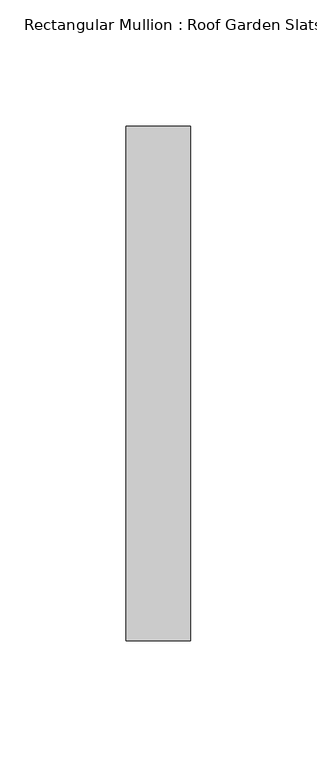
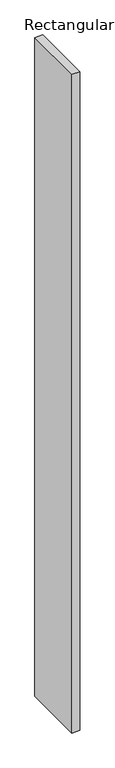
"""IFC4 building model written with IfcOpenShell, lengths in millimetres: member geometry, Rectangular Mullion : Roof Garden Slats."""

from ifc_helpers import new_model, si_unit, frame, origin, place, context, project, spatial, polyline, outline, extrude, source, transform, mapped, element, save


def rectangular_mullion_roof_garden_slats_190c964f(model_context):
    return source(origin(), model_context, "Body", "SweptSolid", [
        extrude(outline(polyline([(12.7, 139.7), (12.7, -63.5), (-12.7, -63.5), (-12.7, 139.7), (12.7, 139.7)])), frame((0.0, 0.0, -2212.941175), z_axis=(0.0, 0.0, 1.0), x_axis=(1.0, 0.0, 0.0)), (0.0, 0.0, 1.0), 2212.941175),
    ])


if __name__ == "__main__":
    model = new_model("IFC4")
    model_context = context("Model", 3, world=origin())
    ifc_project = project(units=[si_unit("LENGTHUNIT", "METRE", prefix="MILLI")], contexts=[model_context])
    site = spatial("IfcSite", under=ifc_project)
    building = spatial("IfcBuilding", under=site)
    placement = place(None, origin())
    rectangular_mullion_roof_garden_slats_shape = rectangular_mullion_roof_garden_slats_190c964f(model_context)
    element("IfcMember", 1, ObjectType="Rectangular Mullion : Roof Garden Slats", at=placement, inside=building, context=model_context, shape_type="MappedRepresentation", body=[
        mapped(rectangular_mullion_roof_garden_slats_shape, transform((0.0, 0.0, 0.0), x_axis=(1.0, 0.0, 0.0), y_axis=(0.0, 1.0, 0.0), z_axis=(0.0, 0.0, 1.0))),
    ])
    save(model, "model.ifc")
